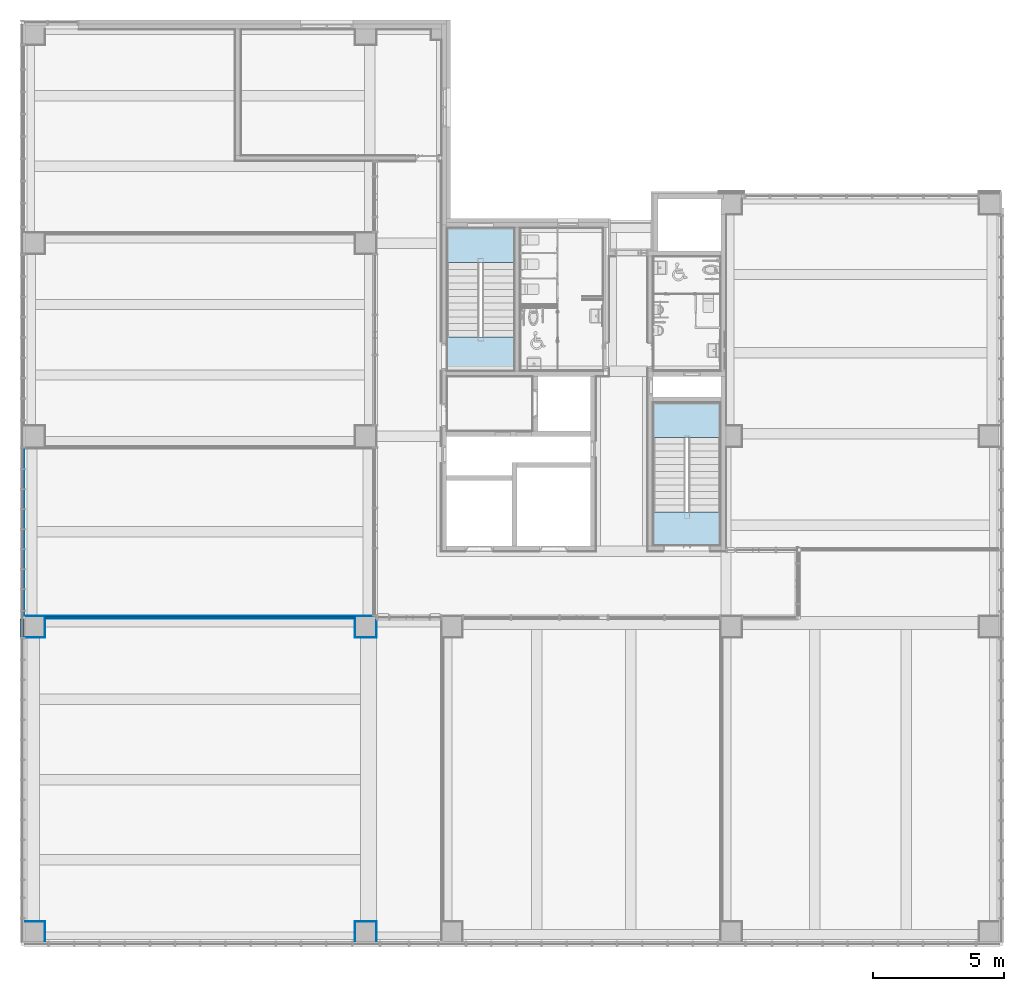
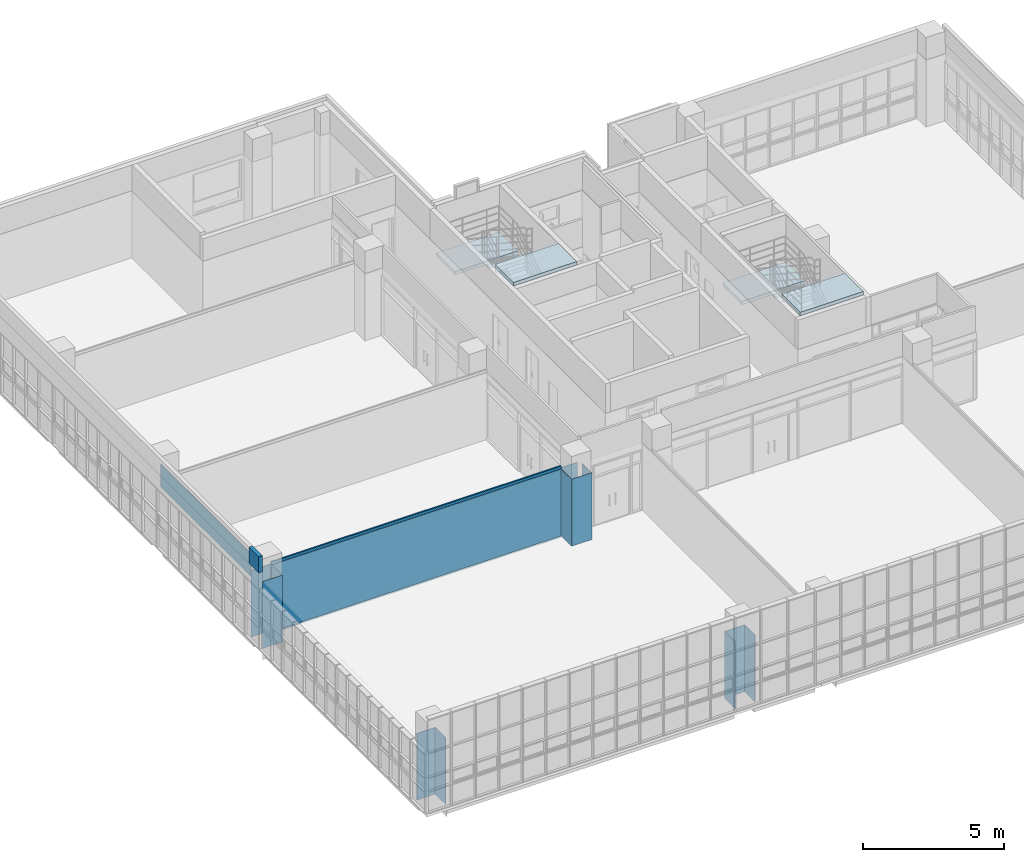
# One storey, part 43 of 76: 15 walls, 4 slabs, 2 elements without a shape of their own.
"""IFC2X3 building model written with IfcOpenShell, lengths in millimetres."""

from ifc_helpers import new_model, entity, si_unit, converted_unit, derived_unit, direction, frame, frame_2d, origin, place, context, subcontext, project, spatial, rectangle, extrude, faceted_brep, material, layer, layer_set, layer_usage, type_object, element, aggregate, save


model = new_model("IFC2X3")

# Units and contexts
model_context = context("Model", 3, precision=0.01, world=origin(), true_north=direction((6.123031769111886e-17, 1.0)))
body_context = subcontext(model_context, "Body", "Model", "MODEL_VIEW")
ifc_project = project(units=[si_unit("LENGTHUNIT", "METRE", prefix="MILLI"), si_unit("AREAUNIT", "SQUARE_METRE"), si_unit("VOLUMEUNIT", "CUBIC_METRE"), converted_unit("PLANEANGLEUNIT", "DEGREE", entity("IfcRatioMeasure", 0.017453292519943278), si_unit("PLANEANGLEUNIT", "RADIAN"), dimensions=[0, 0, 0, 0, 0, 0, 0]), si_unit("MASSUNIT", "GRAM", prefix="KILO"), derived_unit("MASSDENSITYUNIT", [(si_unit("MASSUNIT", "GRAM", prefix="KILO"), 1), (si_unit("LENGTHUNIT", "METRE"), -3)]), derived_unit("MOMENTOFINERTIAUNIT", [(si_unit("LENGTHUNIT", "METRE"), 4)]), si_unit("TIMEUNIT", "SECOND"), si_unit("FREQUENCYUNIT", "HERTZ"), si_unit("THERMODYNAMICTEMPERATUREUNIT", "DEGREE_CELSIUS"), derived_unit("THERMALTRANSMITTANCEUNIT", [(si_unit("MASSUNIT", "GRAM", prefix="KILO"), 1), (si_unit("THERMODYNAMICTEMPERATUREUNIT", "KELVIN"), -1), (si_unit("TIMEUNIT", "SECOND"), -3)]), derived_unit("VOLUMETRICFLOWRATEUNIT", [(si_unit("LENGTHUNIT", "METRE"), 3), (si_unit("TIMEUNIT", "SECOND"), -1)]), derived_unit("MASSFLOWRATEUNIT", [(si_unit("MASSUNIT", "GRAM", prefix="KILO"), 1), (si_unit("TIMEUNIT", "SECOND"), -1)]), derived_unit("ROTATIONALFREQUENCYUNIT", [(si_unit("TIMEUNIT", "SECOND"), -1)]), si_unit("ELECTRICCURRENTUNIT", "AMPERE"), si_unit("ELECTRICVOLTAGEUNIT", "VOLT"), si_unit("POWERUNIT", "WATT"), si_unit("FORCEUNIT", "NEWTON", prefix="KILO"), si_unit("ILLUMINANCEUNIT", "LUX"), si_unit("LUMINOUSFLUXUNIT", "LUMEN"), si_unit("LUMINOUSINTENSITYUNIT", "CANDELA"), derived_unit("USERDEFINED", [(si_unit("MASSUNIT", "GRAM", prefix="KILO"), -1), (si_unit("LENGTHUNIT", "METRE"), -2), (si_unit("TIMEUNIT", "SECOND"), 3), (si_unit("LUMINOUSFLUXUNIT", "LUMEN"), 1)]), derived_unit("SOUNDPOWERUNIT", [(si_unit("MASSUNIT", "GRAM", prefix="KILO"), 1), (si_unit("LENGTHUNIT", "METRE"), 2), (si_unit("TIMEUNIT", "SECOND"), -3)]), derived_unit("SOUNDPRESSUREUNIT", [(si_unit("MASSUNIT", "GRAM", prefix="KILO"), 1), (si_unit("LENGTHUNIT", "METRE"), -1), (si_unit("TIMEUNIT", "SECOND"), -2)]), derived_unit("LINEARVELOCITYUNIT", [(si_unit("LENGTHUNIT", "METRE"), 1), (si_unit("TIMEUNIT", "SECOND"), -1)]), si_unit("PRESSUREUNIT", "PASCAL"), derived_unit("USERDEFINED", [(si_unit("LENGTHUNIT", "METRE"), -2), (si_unit("MASSUNIT", "GRAM", prefix="KILO"), 1), (si_unit("TIMEUNIT", "SECOND"), -2)]), derived_unit("LINEARFORCEUNIT", [(si_unit("MASSUNIT", "GRAM", prefix="KILO"), 1), (si_unit("LENGTHUNIT", "METRE"), 1), (si_unit("TIMEUNIT", "SECOND"), -2), (si_unit("LENGTHUNIT", "METRE"), -1)]), derived_unit("PLANARFORCEUNIT", [(si_unit("MASSUNIT", "GRAM", prefix="KILO"), 1), (si_unit("LENGTHUNIT", "METRE"), 1), (si_unit("TIMEUNIT", "SECOND"), -2), (si_unit("LENGTHUNIT", "METRE"), -2)])], contexts=[model_context])

# Site, building, storey
site_placement = place(None, frame((-14167.972527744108, -657.2125860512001, 0.0)))
site = spatial("IfcSite", under=ifc_project, at=site_placement, Name="Default", CompositionType="ELEMENT")
building_placement = place(site_placement, origin())
building = spatial("IfcBuilding", under=site, at=building_placement, Name="Sample Building", CompositionType="ELEMENT")
storey_placement = place(building_placement, frame((0.0, 0.0, 9300.0)))
storey = spatial("IfcBuildingStorey", under=building, at=storey_placement, Name="지상 3층", CompositionType="ELEMENT", Elevation=9300.000000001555)

# Stair, slabs
stair_1_placement = place(storey_placement, origin())
stair_1 = element("IfcStair", 1, at=stair_1_placement, inside=storey, Name="현장타설 계단:계단", ObjectType="현장타설 계단:ST111-철근콘크리트구조 계단 (U형)", ShapeType="NOTDEFINED")
ifc_material_1 = material(Name="KBIMS-콘크리트")
slab_type_1 = type_object("IfcSlabType", Name="일체형 계단참:일체형 계단참 150mm_철근콘크리트", PredefinedType="LANDING")
slab_1_placement = place(stair_1_placement, frame((30266.12581445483, 26617.1433876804, 0.0)))
slab_1 = element("IfcSlab", 2, at=slab_1_placement, type_object=slab_type_1, material=ifc_material_1, Name="현장타설 계단:계단:5314813 Landing 1", ObjectType="일체형 계단참:일체형 계단참 150mm_철근콘크리트", PredefinedType="LANDING", context=body_context, shape_type="Brep", body=[
    faceted_brep([(1349.9912185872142, 0.034405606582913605, 2050.0), (2600.0, 0.034405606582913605, 2050.0), (2600.0, 304.90385234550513, 2050.0), (2600.0, 1340.0689203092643, 2050.0), (0.0, 1340.0689203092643, 2050.0), (0.0, 0.0, 2050.0), (1249.9990872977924, 0.0, 2050.0), (2600.0, 1340.0689203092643, 1900.0), (0.0, 1340.0689203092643, 1900.0), (0.0, 0.0, 1900.0), (1249.9990872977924, 0.0, 1900.0), (1349.9912185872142, 0.034405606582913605, 1900.0), (2600.0, 304.90385234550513, 1900.0), (1349.9912185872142, 304.9038523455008, 1900.0), (2600.0, 0.034405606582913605, 1699.6851385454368), (1349.9912185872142, 0.034405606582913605, 1699.6851385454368), (1349.9912185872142, 0.034405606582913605, 1879.1666660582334), (2600.0, 0.034405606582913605, 1879.1666660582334)], [[[0, 1, 2, 3, 4, 5, 6]], [[4, 3, 7, 8]], [[5, 4, 8, 9]], [[0, 6, 10, 11]], [[12, 13, 11, 10, 9, 8, 7]], [[13, 12, 14, 15]], [[11, 13, 15, 16]], [[1, 0, 11, 16, 15, 14, 17]], [[1, 17, 14, 12, 7, 3, 2]], [[6, 5, 9, 10]]]),
])
slab_type_2 = type_object("IfcSlabType", Name="일체형 계단참:일체형 계단참 150mm_철근콘크리트", PredefinedType="LANDING")
slab_2_placement = place(stair_1_placement, frame((30266.125814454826, 22457.21245198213, 0.0)))
slab_2 = element("IfcSlab", 3, at=slab_2_placement, type_object=slab_type_2, material=ifc_material_1, Name="현장타설 계단:계단:5314813 Landing 2", ObjectType="일체형 계단참:일체형 계단참 150mm_철근콘크리트", PredefinedType="LANDING", context=body_context, shape_type="Brep", body=[
    faceted_brep([(1249.9990872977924, 1299.9309356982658, 4100.0), (0.0, 1299.9309356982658, 4100.0), (0.0, 995.0614889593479, 4100.0), (0.0, 0.0, 4100.0), (2600.0, 0.0, 4100.0), (2600.0, 1299.9309356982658, 4100.0), (2600.0, 0.0, 3950.0), (2600.0, 1299.9309356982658, 3950.0), (0.0, 1299.9309356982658, 3929.166666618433), (0.0, 1299.9309356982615, 3749.685139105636), (0.0, 995.0614889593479, 3950.0), (0.0, 0.0, 3950.0), (1249.9990872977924, 995.0614889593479, 3950.0), (1249.9990872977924, 1299.9309356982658, 3950.0), (1249.9990872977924, 1299.9309356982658, 3929.166666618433), (1249.9990872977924, 1299.9309356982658, 3749.6851391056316)], [[[0, 1, 2, 3, 4, 5]], [[5, 4, 6, 7]], [[1, 8, 9, 10, 11, 3, 2]], [[4, 3, 11, 6]], [[10, 12, 13, 7, 6, 11]], [[1, 0, 13, 14, 15, 9, 8]], [[0, 5, 7, 13]], [[12, 10, 9, 15]], [[13, 12, 15, 14]]]),
])
aggregate(stair_1, [slab_1, slab_2])

stair_2_placement = place(storey_placement, origin())
stair_2 = element("IfcStair", 4, at=stair_2_placement, inside=storey, Name="현장타설 계단:계단", ObjectType="현장타설 계단:ST111-철근콘크리트구조 계단 (U형)", ShapeType="NOTDEFINED")
slab_type_3 = type_object("IfcSlabType", Name="일체형 계단참:일체형 계단참 150mm_철근콘크리트", PredefinedType="LANDING")
slab_3_placement = place(stair_2_placement, frame((38165.98698650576, 19917.143384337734, 0.0)))
slab_3 = element("IfcSlab", 5, at=slab_3_placement, type_object=slab_type_3, material=ifc_material_1, Name="현장타설 계단:계단:5315225 Landing 1", ObjectType="일체형 계단참:일체형 계단참 150mm_철근콘크리트", PredefinedType="LANDING", context=body_context, shape_type="Brep", body=[
    faceted_brep([(1349.9912185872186, 0.034405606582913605, 2050.0), (2600.0, 0.034405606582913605, 2050.0), (2600.0, 304.9038523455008, 2050.0), (2600.0, 1340.0689203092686, 2050.0), (0.0, 1340.0689203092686, 2050.0), (0.0, 0.0, 2050.0), (1249.9990872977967, 0.0, 2050.0), (2600.0, 1340.0689203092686, 1900.0), (0.0, 1340.0689203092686, 1900.0), (0.0, 0.0, 1900.0), (1249.999087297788, 0.0, 1900.0), (1349.9912185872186, 0.034405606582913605, 1900.0), (2600.0, 304.9038523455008, 1900.0), (1349.9912185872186, 304.9038523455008, 1900.0), (2600.0, 0.034405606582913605, 1699.6851385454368), (1349.9912185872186, 0.034405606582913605, 1699.6851385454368), (1349.9912185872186, 0.034405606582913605, 1879.1666660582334), (2600.0, 0.034405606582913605, 1879.1666660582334)], [[[0, 1, 2, 3, 4, 5, 6]], [[4, 3, 7, 8]], [[5, 4, 8, 9]], [[0, 6, 10, 11]], [[12, 13, 11, 10, 9, 8, 7]], [[13, 12, 14, 15]], [[11, 13, 15, 16]], [[1, 0, 11, 16, 15, 14, 17]], [[1, 17, 14, 12, 7, 3, 2]], [[6, 5, 9, 10]]]),
])
slab_type_4 = type_object("IfcSlabType", Name="일체형 계단참:일체형 계단참 150mm_철근콘크리트", PredefinedType="LANDING")
slab_4_placement = place(stair_2_placement, frame((38165.986986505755, 15757.21244863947, 0.0)))
slab_4 = element("IfcSlab", 6, at=slab_4_placement, type_object=slab_type_4, material=ifc_material_1, Name="현장타설 계단:계단:5315225 Landing 2", ObjectType="일체형 계단참:일체형 계단참 150mm_철근콘크리트", PredefinedType="LANDING", context=body_context, shape_type="Brep", body=[
    faceted_brep([(1249.9990872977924, 1299.9309356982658, 4100.0), (0.0, 1299.9309356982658, 4100.0), (0.0, 995.0614889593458, 4100.0), (0.0, 0.0, 4100.0), (2600.0, 0.0, 4100.0), (2600.0, 1299.9309356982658, 4100.0), (2600.0, 0.0, 3950.0), (2600.0, 1299.9309356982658, 3950.0), (0.0, 1299.9309356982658, 3929.166666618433), (0.0, 1299.9309356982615, 3749.685139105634), (0.0, 995.0614889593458, 3950.0), (0.0, 0.0, 3950.0), (1249.9990872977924, 995.0614889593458, 3950.0), (1249.9990872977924, 1299.9309356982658, 3950.0), (1249.9990872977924, 1299.9309356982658, 3929.166666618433), (1249.9990872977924, 1299.9309356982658, 3749.6851391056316)], [[[0, 1, 2, 3, 4, 5]], [[5, 4, 6, 7]], [[1, 8, 9, 10, 11, 3, 2]], [[4, 3, 11, 6]], [[10, 12, 13, 7, 6, 11]], [[1, 0, 13, 14, 15, 9, 8]], [[0, 5, 7, 13]], [[12, 10, 9, 15]], [[13, 12, 15, 14]]]),
])
aggregate(stair_2, [slab_3, slab_4])

# Walls
ifc_material_2 = material(Name="KBIMS-DRY WALL")
ifc_layer_1 = layer(ifc_material_2, 12.5)
ifc_material_3 = material(Name="KBIMS-경량철골벽틀")
ifc_layer_2 = layer(ifc_material_3, 50.0)
ifc_layer_set_1 = layer_set([ifc_layer_1, ifc_layer_2], Name="기본 벽:WA731-DRY WALL(C50, GS12.5mm) (1겹한면, GW50mm) 62.5mm")
ifc_layer_usage_1 = layer_usage(ifc_layer_set_1, "AXIS2", "NEGATIVE", 31.250000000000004)
wall_type_1 = type_object("IfcWallType", Name="기본 벽:WA731-DRY WALL(C50, GS12.5mm) (1겹한면, GW50mm) 62.5mm", PredefinedType="STANDARD", material=ifc_layer_set_1)
wall_1_placement = place(storey_placement, frame((14867.972491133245, 13025.927624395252, -2.2989269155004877e-09)))
element("IfcWallStandardCase", 7, at=wall_1_placement, inside=storey, type_object=wall_type_1, material=ifc_layer_usage_1, Name="기본 벽:WA731-DRY WALL(C50, GS12.5mm) (1겹한면, GW50mm) 62.5mm", ObjectType="기본 벽:WA731-DRY WALL(C50, GS12.5mm) (1겹한면, GW50mm) 62.5mm", context=body_context, shape_type="SweptSolid", body=[
    extrude(rectangle(XDim=11900.0, YDim=62.50000000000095, at=frame_2d((5950.0, -9.71667191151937e-13), x_axis=(-1.0, 0.0))), origin(), (0.0, 0.0, 1.0), 3100.000000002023),
])
ifc_material_4 = material(Name="WA785-금속외장패널")
ifc_layer_3 = layer(ifc_material_4, 25.0)
ifc_material_5 = material(Name="WA793-금속 긴결철물 벽")
ifc_layer_4 = layer(ifc_material_5, 75.0)
ifc_material_6 = material(Name="WA821-압출스티로폼 벽 (본드붙임, 비중0.03) 50mm")
ifc_layer_5 = layer(ifc_material_6, 50.0)
ifc_layer_set_2 = layer_set([ifc_layer_3, ifc_layer_4, ifc_layer_5], Name="기본 벽:A2-26-01A-압출스티로폼, 금속 긴결철물, 금속외장패널 (150mm)")
ifc_layer_usage_2 = layer_usage(ifc_layer_set_2, "AXIS2", "POSITIVE", -75.0)
wall_type_2 = type_object("IfcWallType", Name="기본 벽:A2-26-01A-압출스티로폼, 금속 긴결철물, 금속외장패널 (150mm)", PredefinedType="STANDARD", material=ifc_layer_set_2)
wall_2_placement = place(storey_placement, frame((13992.955105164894, 12957.177624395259, 3400.0), z_axis=(0.0, 0.0, 1.0), x_axis=(0.0, -1.0, 0.0)))
element("IfcWallStandardCase", 8, at=wall_2_placement, inside=storey, type_object=wall_type_2, material=ifc_layer_usage_2, Name="기본 벽:A2-26-01A-압출스티로폼, 금속 긴결철물, 금속외장패널 (150mm)", ObjectType="기본 벽:A2-26-01A-압출스티로폼, 금속 긴결철물, 금속외장패널 (150mm)", context=body_context, shape_type="SweptSolid", body=[
    extrude(rectangle(XDim=699.9650383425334, YDim=150.00000000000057, at=frame_2d((349.9825191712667, 5.186961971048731e-13), x_axis=(-1.0, 0.0))), origin(), (0.0, 0.0, 1.0), 700.000000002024),
])
ifc_material_7 = material(Name="WA611-수성페인트 (내부) 벽 (3회)")
ifc_layer_6 = layer(ifc_material_7, 1.0)
ifc_material_8 = material(Name="WA551-시멘트모르타르 (내부) 벽 18mm")
ifc_layer_7 = layer(ifc_material_8, 16.0)
ifc_material_9 = material(Name="WA555-콘크리트면정리 벽 (내부)")
ifc_layer_8 = layer(ifc_material_9, 1.0)
ifc_layer_set_3 = layer_set([ifc_layer_6, ifc_layer_7, ifc_layer_8], Name="기본 벽:A1-32-06A-콘크리트면정리, 시멘트모르타르(미장용), 수성페인트(내부) (18mm)")
ifc_layer_usage_3 = layer_usage(ifc_layer_set_3, "AXIS2", "POSITIVE", -9.000000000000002)
wall_type_3 = type_object("IfcWallType", Name="기본 벽:A1-32-06A-콘크리트면정리, 시멘트모르타르(미장용), 수성페인트(내부) (18mm)", PredefinedType="STANDARD", material=ifc_layer_set_3)
wall_3_placement = place(storey_placement, frame((27477.972491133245, 13066.212307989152, 80.0), z_axis=(0.0, 0.0, 1.0), x_axis=(-1.0, 0.0, 0.0)))
element("IfcWallStandardCase", 9, at=wall_3_placement, inside=storey, type_object=wall_type_3, material=ifc_layer_usage_3, Name="기본 벽:A1-32-06A-콘크리트면정리, 시멘트모르타르(미장용), 수성페인트(내부) (18mm)", ObjectType="기본 벽:A1-32-06A-콘크리트면정리, 시멘트모르타르(미장용), 수성페인트(내부) (18mm)", context=body_context, shape_type="SweptSolid", body=[
    extrude(rectangle(XDim=13410.017385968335, YDim=18.000000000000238, at=frame_2d((6705.008692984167, -9.707790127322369e-13), x_axis=(-1.0, 0.0))), origin(), (0.0, 0.0, 1.0), 2899.999999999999),
])
ifc_layer_usage_4 = layer_usage(ifc_layer_set_3, "AXIS2", "POSITIVE", -9.000000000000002)
wall_4_placement = place(storey_placement, frame((14067.711441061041, 12248.212307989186, 80.0)))
element("IfcWallStandardCase", 10, at=wall_4_placement, inside=storey, type_object=wall_type_3, material=ifc_layer_usage_4, Name="기본 벽:A1-32-06A-콘크리트면정리, 시멘트모르타르(미장용), 수성페인트(내부) (18mm)", ObjectType="기본 벽:A1-32-06A-콘크리트면정리, 시멘트모르타르(미장용), 수성페인트(내부) (18mm)", context=body_context, shape_type="SweptSolid", body=[
    extrude(rectangle(XDim=818.2436456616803, YDim=18.00000000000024, at=frame_2d((409.12182283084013, -5.1514348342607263e-14), x_axis=(-1.0, 0.0))), origin(), (0.0, 0.0, 1.0), 2899.999999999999),
])
ifc_layer_usage_5 = layer_usage(ifc_layer_set_3, "AXIS2", "POSITIVE", -9.000000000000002)
wall_5_placement = place(storey_placement, frame((14876.95508672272, 12257.212307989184, 80.0), z_axis=(0.0, 0.0, 1.0), x_axis=(0.0, 1.0, 0.0)))
element("IfcWallStandardCase", 11, at=wall_5_placement, inside=storey, type_object=wall_type_3, material=ifc_layer_usage_5, Name="기본 벽:A1-32-06A-콘크리트면정리, 시멘트모르타르(미장용), 수성페인트(내부) (18mm)", ObjectType="기본 벽:A1-32-06A-콘크리트면정리, 시멘트모르타르(미장용), 수성페인트(내부) (18mm)", context=body_context, shape_type="SweptSolid", body=[
    extrude(rectangle(XDim=737.4653164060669, YDim=18.000000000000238, at=frame_2d((368.73265820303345, 0.0), x_axis=(-1.0, 0.0))), origin(), (0.0, 0.0, 1.0), 2899.999999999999),
])
ifc_layer_usage_6 = layer_usage(ifc_layer_set_3, "AXIS2", "POSITIVE", -9.000000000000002)
wall_6_placement = place(storey_placement, frame((26758.95514177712, 12994.677624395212, 80.0), z_axis=(0.0, 0.0, 1.0), x_axis=(0.0, -1.0, 0.0)))
element("IfcWallStandardCase", 12, at=wall_6_placement, inside=storey, type_object=wall_type_3, material=ifc_layer_usage_6, Name="기본 벽:A1-32-06A-콘크리트면정리, 시멘트모르타르(미장용), 수성페인트(내부) (18mm)", ObjectType="기본 벽:A1-32-06A-콘크리트면정리, 시멘트모르타르(미장용), 수성페인트(내부) (18mm)", context=body_context, shape_type="SweptSolid", body=[
    extrude(rectangle(XDim=755.4653164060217, YDim=18.00000000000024, at=frame_2d((377.7326582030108, -2.1662671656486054e-12), x_axis=(-1.0, 0.0))), origin(), (0.0, 0.0, 1.0), 2899.999999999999),
])
ifc_layer_usage_7 = layer_usage(ifc_layer_set_3, "AXIS2", "POSITIVE", -9.000000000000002)
wall_7_placement = place(storey_placement, frame((26767.955141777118, 12248.21230798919, 80.0)))
element("IfcWallStandardCase", 13, at=wall_7_placement, inside=storey, type_object=wall_type_3, material=ifc_layer_usage_7, Name="기본 벽:A1-32-06A-콘크리트면정리, 시멘트모르타르(미장용), 수성페인트(내부) (18mm)", ObjectType="기본 벽:A1-32-06A-콘크리트면정리, 시멘트모르타르(미장용), 수성페인트(내부) (18mm)", context=body_context, shape_type="SweptSolid", body=[
    extrude(rectangle(XDim=817.7563358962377, YDim=18.000000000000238, at=frame_2d((408.87816794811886, -2.0250467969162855e-13), x_axis=(-1.0, 0.0))), origin(), (0.0, 0.0, 1.0), 2899.999999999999),
])
ifc_layer_usage_8 = layer_usage(ifc_layer_set_3, "AXIS2", "POSITIVE", -9.000000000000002)
wall_8_placement = place(storey_placement, frame((27576.711477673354, 12257.212307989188, 80.0), z_axis=(0.0, 0.0, 1.0), x_axis=(0.0, 1.0, 0.0)))
element("IfcWallStandardCase", 14, at=wall_8_placement, inside=storey, type_object=wall_type_3, material=ifc_layer_usage_8, Name="기본 벽:A1-32-06A-콘크리트면정리, 시멘트모르타르(미장용), 수성페인트(내부) (18mm)", ObjectType="기본 벽:A1-32-06A-콘크리트면정리, 시멘트모르타르(미장용), 수성페인트(내부) (18mm)", context=body_context, shape_type="SweptSolid", body=[
    extrude(rectangle(XDim=655.0000000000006, YDim=18.00000000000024, at=frame_2d((327.5000000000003, -2.1662671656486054e-12), x_axis=(-1.0, 0.0))), origin(), (0.0, 0.0, 1.0), 2899.999999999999),
])
ifc_layer_usage_9 = layer_usage(ifc_layer_set_3, "AXIS2", "POSITIVE", -9.000000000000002)
wall_9_placement = place(storey_placement, frame((14885.955086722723, 12985.67762439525, 80.0)))
element("IfcWallStandardCase", 15, at=wall_9_placement, inside=storey, type_object=wall_type_3, material=ifc_layer_usage_9, Name="기본 벽:A1-32-06A-콘크리트면정리, 시멘트모르타르(미장용), 수성페인트(내부) (18mm)", ObjectType="기본 벽:A1-32-06A-콘크리트면정리, 시멘트모르타르(미장용), 수성페인트(내부) (18mm)", context=body_context, shape_type="SweptSolid", body=[
    extrude(rectangle(XDim=11864.000055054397, YDim=18.000000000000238, at=frame_2d((5932.000027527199, 0.0), x_axis=(-1.0, 0.0))), origin(), (0.0, 0.0, 1.0), 2899.999999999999),
])
ifc_layer_usage_10 = layer_usage(ifc_layer_set_3, "AXIS2", "NEGATIVE", 9.000000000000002)
wall_10_placement = place(storey_placement, frame((14118.587904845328, 1366.2118860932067, 80.0)))
element("IfcWallStandardCase", 16, at=wall_10_placement, inside=storey, type_object=wall_type_3, material=ifc_layer_usage_10, Name="기본 벽:A1-32-06A-콘크리트면정리, 시멘트모르타르(미장용), 수성페인트(내부) (18mm)", ObjectType="기본 벽:A1-32-06A-콘크리트면정리, 시멘트모르타르(미장용), 수성페인트(내부) (18mm)", context=body_context, shape_type="SweptSolid", body=[
    extrude(rectangle(XDim=767.3845496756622, YDim=17.999999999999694, at=frame_2d((383.6922748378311, 1.4654943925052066e-13), x_axis=(-1.0, 0.0))), origin(), (0.0, 0.0, 1.0), 2899.999999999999),
])
ifc_layer_usage_11 = layer_usage(ifc_layer_set_3, "AXIS2", "POSITIVE", -9.000000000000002)
wall_11_placement = place(storey_placement, frame((14876.97245452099, 607.212295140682, 80.0), z_axis=(0.0, 0.0, 1.0), x_axis=(0.0, 1.0, 0.0)))
element("IfcWallStandardCase", 17, at=wall_11_placement, inside=storey, type_object=wall_type_3, material=ifc_layer_usage_11, Name="기본 벽:A1-32-06A-콘크리트면정리, 시멘트모르타르(미장용), 수성페인트(내부) (18mm)", ObjectType="기본 벽:A1-32-06A-콘크리트면정리, 시멘트모르타르(미장용), 수성페인트(내부) (18mm)", context=body_context, shape_type="SweptSolid", body=[
    extrude(rectangle(XDim=749.9995909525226, YDim=18.000000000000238, at=frame_2d((374.9997954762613, 0.0), x_axis=(-1.0, 0.0))), origin(), (0.0, 0.0, 1.0), 2899.999999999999),
])
ifc_layer_usage_12 = layer_usage(ifc_layer_set_3, "AXIS2", "NEGATIVE", 9.000000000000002)
wall_12_placement = place(storey_placement, frame((26758.955141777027, 607.2122951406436, 80.0), z_axis=(0.0, 0.0, 1.0), x_axis=(0.0, 1.0, 0.0)))
element("IfcWallStandardCase", 18, at=wall_12_placement, inside=storey, type_object=wall_type_3, material=ifc_layer_usage_12, Name="기본 벽:A1-32-06A-콘크리트면정리, 시멘트모르타르(미장용), 수성페인트(내부) (18mm)", ObjectType="기본 벽:A1-32-06A-콘크리트면정리, 시멘트모르타르(미장용), 수성페인트(내부) (18mm)", context=body_context, shape_type="SweptSolid", body=[
    extrude(rectangle(XDim=749.9999000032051, YDim=18.00000000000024, at=frame_2d((374.99995000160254, -2.1662671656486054e-12), x_axis=(-1.0, 0.0))), origin(), (0.0, 0.0, 1.0), 2899.999999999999),
])
ifc_layer_usage_13 = layer_usage(ifc_layer_set_3, "AXIS2", "POSITIVE", -9.000000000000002)
wall_13_placement = place(storey_placement, frame((27576.95514177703, 607.2122951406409, 80.0), z_axis=(0.0, 0.0, 1.0), x_axis=(0.0, 1.0, 0.0)))
element("IfcWallStandardCase", 19, at=wall_13_placement, inside=storey, type_object=wall_type_3, material=ifc_layer_usage_13, Name="기본 벽:A1-32-06A-콘크리트면정리, 시멘트모르타르(미장용), 수성페인트(내부) (18mm)", ObjectType="기본 벽:A1-32-06A-콘크리트면정리, 시멘트모르타르(미장용), 수성페인트(내부) (18mm)", context=body_context, shape_type="SweptSolid", body=[
    extrude(rectangle(XDim=767.9995909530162, YDim=18.00000000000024, at=frame_2d((383.9997954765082, -2.1662671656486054e-12), x_axis=(-1.0, 0.0))), origin(), (0.0, 0.0, 1.0), 2899.999999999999),
])
ifc_layer_usage_14 = layer_usage(ifc_layer_set_3, "AXIS2", "NEGATIVE", 9.000000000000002)
wall_14_placement = place(storey_placement, frame((26749.972491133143, 1366.2121951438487, 80.0)))
element("IfcWallStandardCase", 20, at=wall_14_placement, inside=storey, type_object=wall_type_3, material=ifc_layer_usage_14, Name="기본 벽:A1-32-06A-콘크리트면정리, 시멘트모르타르(미장용), 수성페인트(내부) (18mm)", ObjectType="기본 벽:A1-32-06A-콘크리트면정리, 시멘트모르타르(미장용), 수성페인트(내부) (18mm)", context=body_context, shape_type="SweptSolid", body=[
    extrude(rectangle(XDim=817.9826506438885, YDim=17.999999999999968, at=frame_2d((408.99132532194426, 1.3500311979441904e-13), x_axis=(-1.0, 0.0))), origin(), (0.0, 0.0, 1.0), 2899.999999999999),
])
ifc_layer_usage_15 = layer_usage(ifc_layer_set_3, "AXIS2", "POSITIVE", -9.000000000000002)
wall_15_placement = place(storey_placement, frame((14076.955105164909, 13075.212307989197, 2700.0), z_axis=(0.0, 0.0, 1.0), x_axis=(0.0, 1.0, 0.0)))
element("IfcWallStandardCase", 21, at=wall_15_placement, inside=storey, type_object=wall_type_3, material=ifc_layer_usage_15, Name="기본 벽:A1-32-06A-콘크리트면정리, 시멘트모르타르(미장용), 수성페인트(내부) (18mm)", ObjectType="기본 벽:A1-32-06A-콘크리트면정리, 시멘트모르타르(미장용), 수성페인트(내부) (18mm)", context=body_context, shape_type="SweptSolid", body=[
    extrude(rectangle(XDim=6419.500309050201, YDim=18.000000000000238, at=frame_2d((3209.7501545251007, 0.0), x_axis=(-1.0, 0.0))), origin(), (0.0, 0.0, 1.0), 1000.0000000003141),
])

save(model, "model.ifc")
